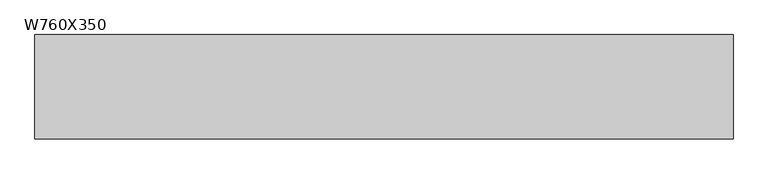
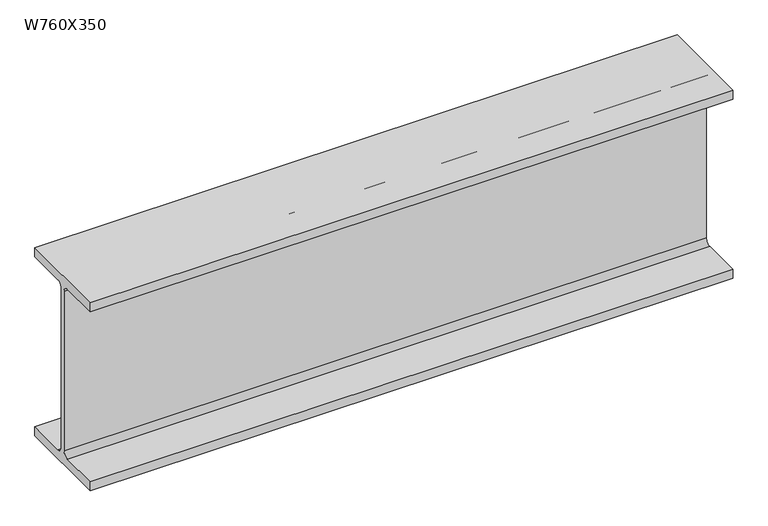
"""IFC4 building model written with IfcOpenShell, lengths in millimetres: beam geometry, M_W-Wide Flange : W760X350."""

from ifc_helpers import new_model, si_unit, point, frame, frame_2d, origin, place, context, project, spatial, polyline, circle_curve, trimmed, segment, composite_curve, outline, extrude, source, transform, mapped, element, save


def w760x350_c870c244(model_context):
    return source(origin(), model_context, "Body", "SweptSolid", [
        extrude(outline(composite_curve([segment(polyline([(192.0, -359.4), (192.0, -397.5), (-192.0, -397.5), (-192.0, -359.4), (-32.75, -359.4)]), True, "CONTINUOUS"), segment(trimmed(circle_curve(frame_2d((-32.75, -337.2)), 22.2), [point((-32.75, -359.4))], [point((-10.55, -337.2))], True, "CARTESIAN"), True, "CONTINUOUS"), segment(polyline([(-10.55, -337.2), (-10.55, 337.2)]), True, "CONTINUOUS"), segment(trimmed(circle_curve(frame_2d((-32.75, 337.2)), 22.2), [point((-10.55, 337.2))], [point((-32.75, 359.4))], True, "CARTESIAN"), True, "CONTINUOUS"), segment(polyline([(-32.75, 359.4), (-192.0, 359.4), (-192.0, 397.5), (192.0, 397.5), (192.0, 359.4), (32.75, 359.4)]), True, "CONTINUOUS"), segment(trimmed(circle_curve(frame_2d((32.75, 337.2)), 22.2), [point((32.75, 359.4))], [point((10.55, 337.2))], True, "CARTESIAN"), True, "CONTINUOUS"), segment(polyline([(10.55, 337.2), (10.55, -337.2)]), True, "CONTINUOUS"), segment(trimmed(circle_curve(frame_2d((32.75, -337.2)), 22.2), [point((10.55, -337.2))], [point((32.75, -359.4))], True, "CARTESIAN"), True, "CONTINUOUS"), segment(polyline([(32.75, -359.4), (192.0, -359.4)]), True, "CONTINUOUS")], self_intersect=False)), frame((-548.9152104, 0.0, 0.0), z_axis=(1.0, 0.0, 0.0), x_axis=(0.0, 1.0, 0.0)), (0.0, 0.0, 1.0), 2568.9152104),
    ])


if __name__ == "__main__":
    model = new_model("IFC4")
    model_context = context("Model", 3, world=origin())
    ifc_project = project(units=[si_unit("LENGTHUNIT", "METRE", prefix="MILLI")], contexts=[model_context])
    site = spatial("IfcSite", under=ifc_project)
    building = spatial("IfcBuilding", under=site)
    placement = place(None, origin())
    w760x350_shape = w760x350_c870c244(model_context)
    element("IfcBeam", 1, ObjectType="M_W-Wide Flange : W760X350", at=placement, inside=building, context=model_context, shape_type="MappedRepresentation", body=[
        mapped(w760x350_shape, transform((0.0, 0.0, 0.0), x_axis=(1.0, 0.0, 0.0), y_axis=(0.0, 1.0, 0.0), z_axis=(0.0, 0.0, 1.0))),
    ])
    save(model, "model.ifc")
